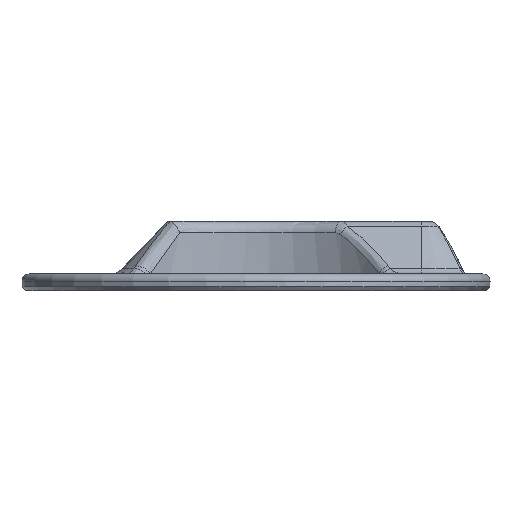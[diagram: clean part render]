
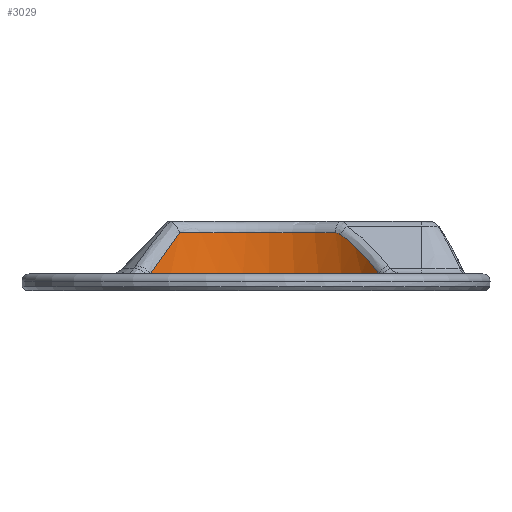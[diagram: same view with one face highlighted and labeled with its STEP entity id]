
A CAD part, left-side view. The second image highlights one B-rep face of the part: STEP entity #3029.
In plain terms, the highlighted cylindrical face has radius 18.5 mm (diameter 37 mm), a partial arc.
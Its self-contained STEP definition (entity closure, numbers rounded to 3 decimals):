
#37=ELLIPSE('',#3138,27.908,18.5);
#95=B_SPLINE_CURVE_WITH_KNOTS('',3,(#4620,#4621,#4622,#4623,#4624),
 .UNSPECIFIED.,.F.,.F.,(4,1,4),(0.,0.043,
0.085),.UNSPECIFIED.);
#128=B_SPLINE_CURVE_WITH_KNOTS('',3,(#6145,#6146,#6147,#6148,#6149,#6150,
#6151),.UNSPECIFIED.,.F.,.F.,(4,1,1,1,4),(0.048,0.364,
0.574,0.68,0.725),.UNSPECIFIED.);
#169=CYLINDRICAL_SURFACE('',#3375,18.5);
#191=CIRCLE('',#3085,18.5);
#281=CIRCLE('',#3229,18.5);
#547=FACE_OUTER_BOUND('',#740,.T.);
#740=EDGE_LOOP('',(#2734,#2735,#2736,#2737,#2738));
#1231=VERTEX_POINT('',#4422);
#1232=VERTEX_POINT('',#4429);
#1267=VERTEX_POINT('',#4609);
#1270=VERTEX_POINT('',#4618);
#1394=VERTEX_POINT('',#5357);
#1505=EDGE_CURVE('',#1231,#1232,#191,.T.);
#1560=EDGE_CURVE('',#1270,#1267,#95,.T.);
#1582=EDGE_CURVE('',#1267,#1231,#37,.T.);
#1732=EDGE_CURVE('',#1394,#1270,#281,.T.);
#1884=EDGE_CURVE('',#1232,#1394,#128,.T.);
#2734=ORIENTED_EDGE('',*,*,#1560,.F.);
#2735=ORIENTED_EDGE('',*,*,#1732,.F.);
#2736=ORIENTED_EDGE('',*,*,#1884,.F.);
#2737=ORIENTED_EDGE('',*,*,#1505,.F.);
#2738=ORIENTED_EDGE('',*,*,#1582,.F.);
#3029=ADVANCED_FACE('',(#547),#169,.F.);
#3085=AXIS2_PLACEMENT_3D('',#4430,#3485,#3486);
#3138=AXIS2_PLACEMENT_3D('',#4742,#3626,#3627);
#3229=AXIS2_PLACEMENT_3D('',#5404,#3879,#3880);
#3375=AXIS2_PLACEMENT_3D('',#6263,#4251,#4252);
#3485=DIRECTION('center_axis',(0.,0.,1.));
#3486=DIRECTION('ref_axis',(-1.,0.,0.));
#3626=DIRECTION('center_axis',(0.749,0.,
-0.663));
#3627=DIRECTION('ref_axis',(0.663,0.,0.749));
#3879=DIRECTION('center_axis',(0.,0.,-1.));
#3880=DIRECTION('ref_axis',(1.,0.,0.));
#4251=DIRECTION('center_axis',(0.,0.,1.));
#4252=DIRECTION('ref_axis',(0.997,-0.08,0.));
#4422=CARTESIAN_POINT('',(39.026,13.372,18.));
#4429=CARTESIAN_POINT('',(41.21,40.638,18.));
#4430=CARTESIAN_POINT('Origin',(27.7,28.,18.));
#4609=CARTESIAN_POINT('',(43.2,17.9,22.714));
#4618=CARTESIAN_POINT('',(43.604,18.549,22.9));
#4620=CARTESIAN_POINT('Ctrl Pts',(43.604,18.549,22.9));
#4621=CARTESIAN_POINT('Ctrl Pts',(43.536,18.435,22.9));
#4622=CARTESIAN_POINT('Ctrl Pts',(43.399,18.21,22.874));
#4623=CARTESIAN_POINT('Ctrl Pts',(43.262,17.996,22.784));
#4624=CARTESIAN_POINT('Ctrl Pts',(43.2,17.9,22.714));
#4742=CARTESIAN_POINT('Origin',(27.7,28.,5.208));
#5357=CARTESIAN_POINT('',(43.783,37.143,22.9));
#5404=CARTESIAN_POINT('Origin',(27.7,28.,22.9));
#6145=CARTESIAN_POINT('Ctrl Pts',(41.21,40.638,18.));
#6146=CARTESIAN_POINT('Ctrl Pts',(41.674,40.143,18.759));
#6147=CARTESIAN_POINT('Ctrl Pts',(42.398,39.277,20.028));
#6148=CARTESIAN_POINT('Ctrl Pts',(43.168,38.166,21.552));
#6149=CARTESIAN_POINT('Ctrl Pts',(43.572,37.508,22.425));
#6150=CARTESIAN_POINT('Ctrl Pts',(43.734,37.228,22.79));
#6151=CARTESIAN_POINT('Ctrl Pts',(43.783,37.143,22.9));
#6263=CARTESIAN_POINT('Origin',(27.7,28.,18.));
